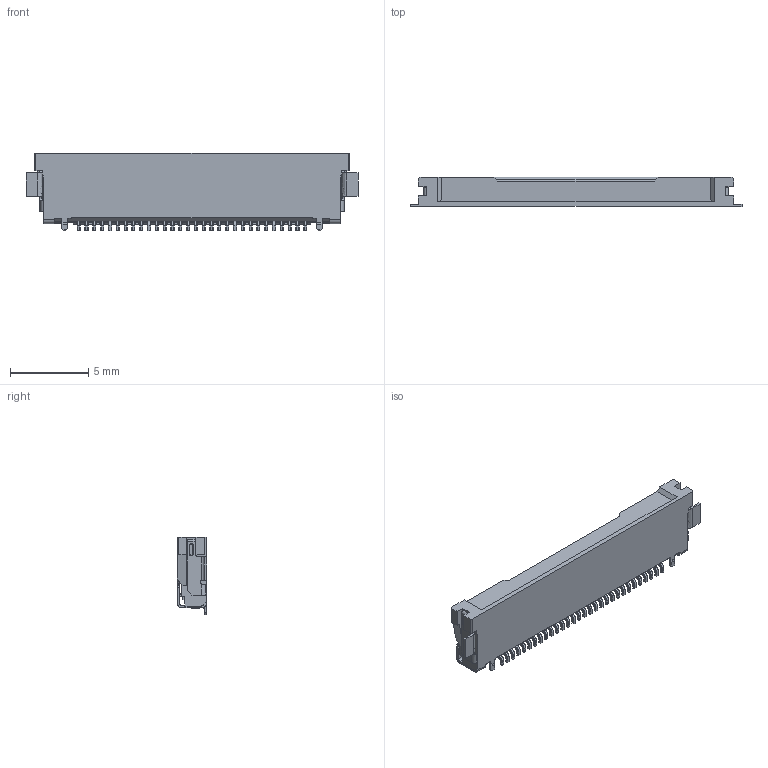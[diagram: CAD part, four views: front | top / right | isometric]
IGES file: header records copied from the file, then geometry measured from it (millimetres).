
Start section: SolidWorks IGES file using analytic representation for surfaces
Global section: file name: C:\3dwork\Watanabe\20240809_20893’†–„‚ß\20893-030ExxxC EVAFLEX 5-VS TYPE R  IGES R0 ALL.IGS; native system: SolidWorks 2023; preprocessor: SolidWorks 2023; author: E1480; date: 240809.150242; units: millimetre
Bounding box: 21.25 x 1.9 x 4.95 mm (x, y, z)
Surface area: 395.3 mm2 (no closed solid volume)
Topology: 0 solids, 0 shells, 1579 faces, 9930 edges, 9930 vertices
Faces by surface type: bspline 1172, revolution 407
